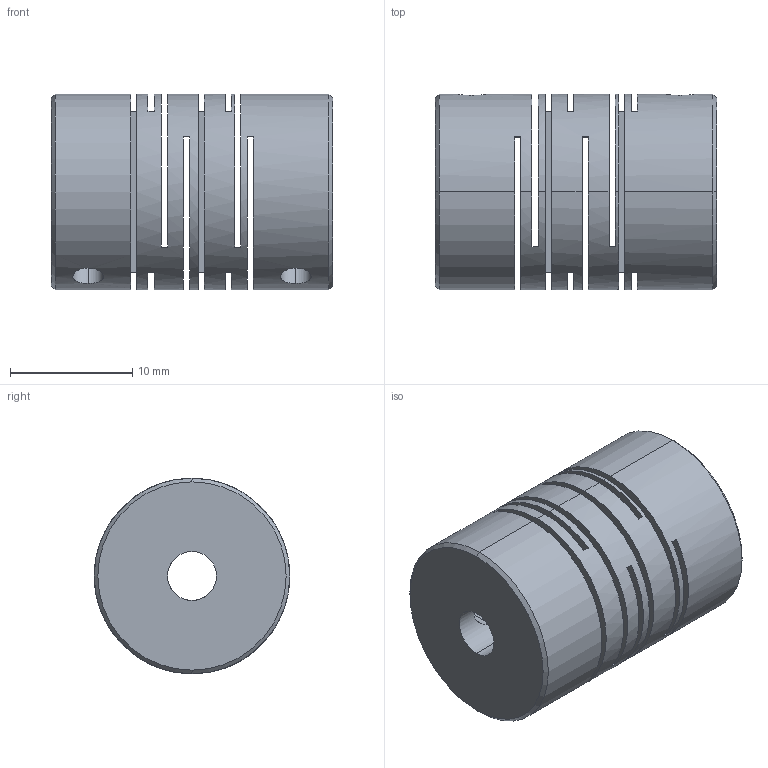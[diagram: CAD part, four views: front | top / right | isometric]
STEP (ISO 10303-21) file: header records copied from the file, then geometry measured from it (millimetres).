
FILE_DESCRIPTION (( 'STEP AP203' ), '1' );
FILE_NAME ('SFC-16.STEP', '2009-09-30T14:57:54', ( 'USER' ), ( 'HOME' ), 'SwSTEP 2.0', 'SolidWorks 2007', '' );
FILE_SCHEMA (( 'CONFIG_CONTROL_DESIGN' ));
Length unit declared in the file: millimetre
Products named in the file (1): SFC-16
Bounding box: 23 x 16 x 16 mm (x, y, z)
Volume: 3587.7 mm3; surface area: 4316.7 mm2
Topology: 1 solids, 1 shells, 62 faces, 182 edges, 120 vertices
Faces by surface type: cylinder 32, plane 26, cone 4
Entity records: 2499 total; most frequent: CARTESIAN_POINT 677, DIRECTION 372, ORIENTED_EDGE 364, EDGE_CURVE 182, AXIS2_PLACEMENT_3D 147, VERTEX_POINT 120, EDGE_LOOP 86, CIRCLE 84
